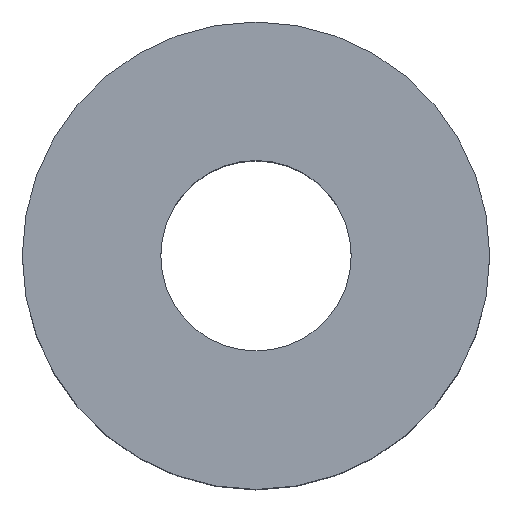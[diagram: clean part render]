
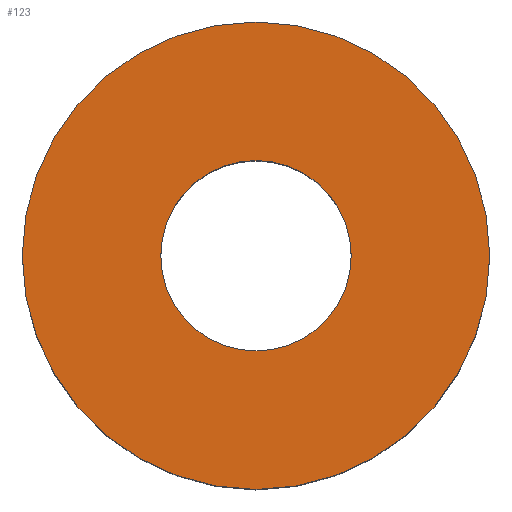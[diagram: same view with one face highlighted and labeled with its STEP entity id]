
A CAD part, top view. The second image highlights one B-rep face of the part: STEP entity #123.
In plain terms, the highlighted planar face has unit normal (0, 0, 1).
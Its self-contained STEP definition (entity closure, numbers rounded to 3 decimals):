
#39 = EDGE_CURVE('',#40,#40,#42,.T.);
#40 = VERTEX_POINT('',#41);
#41 = CARTESIAN_POINT('',(2.7,0.,1.7));
#42 = SURFACE_CURVE('',#43,(#48,#60),.PCURVE_S1.);
#43 = CIRCLE('',#44,2.7);
#44 = AXIS2_PLACEMENT_3D('',#45,#46,#47);
#45 = CARTESIAN_POINT('',(0.,0.,1.7));
#46 = DIRECTION('',(0.,0.,1.));
#47 = DIRECTION('',(1.,0.,-0.));
#48 = PCURVE('',#49,#54);
#49 = CYLINDRICAL_SURFACE('',#50,2.7);
#50 = AXIS2_PLACEMENT_3D('',#51,#52,#53);
#51 = CARTESIAN_POINT('',(0.,0.,-1.7));
#52 = DIRECTION('',(0.,0.,1.));
#53 = DIRECTION('',(1.,0.,-0.));
#54 = DEFINITIONAL_REPRESENTATION('',(#55),#59);
#55 = LINE('',#56,#57);
#56 = CARTESIAN_POINT('',(0.,3.4));
#57 = VECTOR('',#58,1.);
#58 = DIRECTION('',(1.,0.));
#59 = ( GEOMETRIC_REPRESENTATION_CONTEXT(2) 
PARAMETRIC_REPRESENTATION_CONTEXT() REPRESENTATION_CONTEXT('2D SPACE',''
  ) );
#60 = PCURVE('',#61,#66);
#61 = PLANE('',#62);
#62 = AXIS2_PLACEMENT_3D('',#63,#64,#65);
#63 = CARTESIAN_POINT('',(0.,0.,1.7));
#64 = DIRECTION('',(0.,0.,1.));
#65 = DIRECTION('',(1.,0.,-0.));
#66 = DEFINITIONAL_REPRESENTATION('',(#67),#71);
#67 = CIRCLE('',#68,2.7);
#68 = AXIS2_PLACEMENT_2D('',#69,#70);
#69 = CARTESIAN_POINT('',(0.,0.));
#70 = DIRECTION('',(1.,0.));
#71 = ( GEOMETRIC_REPRESENTATION_CONTEXT(2) 
PARAMETRIC_REPRESENTATION_CONTEXT() REPRESENTATION_CONTEXT('2D SPACE',''
  ) );
#123 = ADVANCED_FACE('',(#124,#127),#61,.T.);
#124 = FACE_BOUND('',#125,.T.);
#125 = EDGE_LOOP('',(#126));
#126 = ORIENTED_EDGE('',*,*,#39,.T.);
#127 = FACE_BOUND('',#128,.T.);
#128 = EDGE_LOOP('',(#129));
#129 = ORIENTED_EDGE('',*,*,#130,.F.);
#130 = EDGE_CURVE('',#131,#131,#133,.T.);
#131 = VERTEX_POINT('',#132);
#132 = CARTESIAN_POINT('',(1.1,0.,1.7));
#133 = SURFACE_CURVE('',#134,(#139,#146),.PCURVE_S1.);
#134 = CIRCLE('',#135,1.1);
#135 = AXIS2_PLACEMENT_3D('',#136,#137,#138);
#136 = CARTESIAN_POINT('',(0.,0.,1.7));
#137 = DIRECTION('',(0.,0.,1.));
#138 = DIRECTION('',(1.,0.,-0.));
#139 = PCURVE('',#61,#140);
#140 = DEFINITIONAL_REPRESENTATION('',(#141),#145);
#141 = CIRCLE('',#142,1.1);
#142 = AXIS2_PLACEMENT_2D('',#143,#144);
#143 = CARTESIAN_POINT('',(0.,0.));
#144 = DIRECTION('',(1.,0.));
#145 = ( GEOMETRIC_REPRESENTATION_CONTEXT(2) 
PARAMETRIC_REPRESENTATION_CONTEXT() REPRESENTATION_CONTEXT('2D SPACE',''
  ) );
#146 = PCURVE('',#147,#152);
#147 = CYLINDRICAL_SURFACE('',#148,1.1);
#148 = AXIS2_PLACEMENT_3D('',#149,#150,#151);
#149 = CARTESIAN_POINT('',(0.,0.,-2.7));
#150 = DIRECTION('',(0.,0.,1.));
#151 = DIRECTION('',(1.,0.,-0.));
#152 = DEFINITIONAL_REPRESENTATION('',(#153),#157);
#153 = LINE('',#154,#155);
#154 = CARTESIAN_POINT('',(0.,4.4));
#155 = VECTOR('',#156,1.);
#156 = DIRECTION('',(1.,0.));
#157 = ( GEOMETRIC_REPRESENTATION_CONTEXT(2) 
PARAMETRIC_REPRESENTATION_CONTEXT() REPRESENTATION_CONTEXT('2D SPACE',''
  ) );
